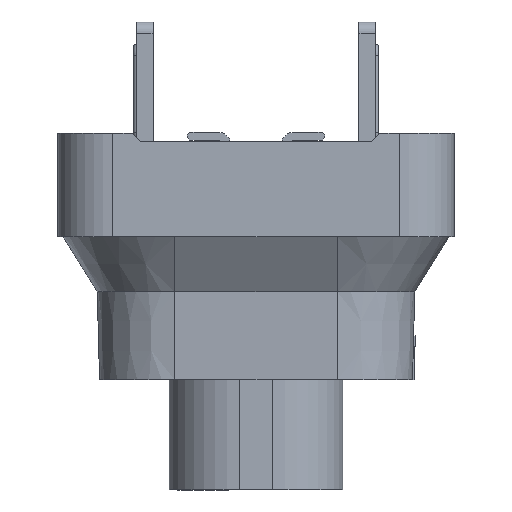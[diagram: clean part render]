
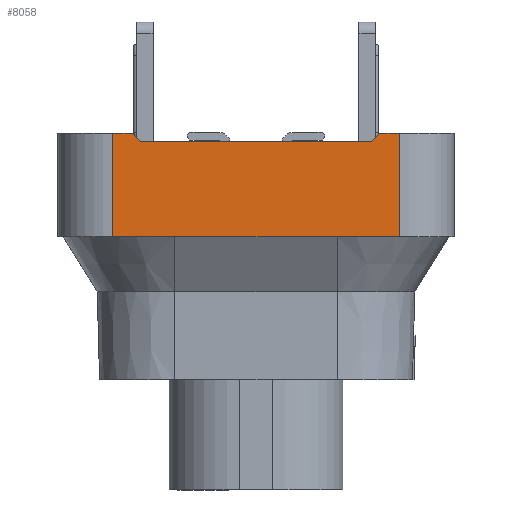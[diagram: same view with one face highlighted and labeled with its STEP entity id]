
A CAD part, left-side view. The second image highlights one B-rep face of the part: STEP entity #8058.
In plain terms, the highlighted planar face has unit normal (-1, 0, 0).
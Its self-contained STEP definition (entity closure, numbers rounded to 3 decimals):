
#157 = VECTOR ( 'NONE', #15771, 1000. ) ;
#159 = VECTOR ( 'NONE', #12511, 1000. ) ;
#929 = EDGE_CURVE ( 'NONE', #9531, #2343, #13704, .T. ) ;
#1407 = EDGE_CURVE ( 'NONE', #14914, #14629, #15536, .T. ) ;
#2066 = CARTESIAN_POINT ( 'NONE',  ( -7.623, 1.93, 14.79 ) ) ;
#2067 = DIRECTION ( 'NONE',  ( 0., 1., 0. ) ) ;
#2102 = CARTESIAN_POINT ( 'NONE',  ( -7.623, 3.574, 13.06 ) ) ;
#2132 = DIRECTION ( 'NONE',  ( 0., 0., 1. ) ) ;
#2153 = ORIENTED_EDGE ( 'NONE', *, *, #11407, .F. ) ;
#2191 = DIRECTION ( 'NONE',  ( 0., -0.707, -0.707 ) ) ;
#2237 = DIRECTION ( 'NONE',  ( 0., -1., 0. ) ) ;
#2343 = VERTEX_POINT ( 'NONE', #17227 ) ;
#2470 = VERTEX_POINT ( 'NONE', #4959 ) ;
#2739 = EDGE_CURVE ( 'NONE', #15483, #14914, #13928, .T. ) ;
#3559 = CARTESIAN_POINT ( 'NONE',  ( -7.623, 2.08, 14.94 ) ) ;
#3670 = VERTEX_POINT ( 'NONE', #11742 ) ;
#4071 = CARTESIAN_POINT ( 'NONE',  ( -7.623, 2.538, 14.79 ) ) ;
#4163 = EDGE_CURVE ( 'NONE', #15483, #3670, #11406, .T. ) ;
#4784 = CARTESIAN_POINT ( 'NONE',  ( -7.623, 3.574, 14.94 ) ) ;
#4939 = EDGE_CURVE ( 'NONE', #2470, #3670, #15441, .T. ) ;
#4959 = CARTESIAN_POINT ( 'NONE',  ( -7.623, 2.43, 13.06 ) ) ;
#5230 = ORIENTED_EDGE ( 'NONE', *, *, #1407, .F. ) ;
#6735 = DIRECTION ( 'NONE',  ( 0., 1., 0. ) ) ;
#6822 = FACE_OUTER_BOUND ( 'NONE', #18827, .T. ) ;
#8058 = ADVANCED_FACE ( 'NONE', ( #6822 ), #18773, .F. ) ;
#8290 = ORIENTED_EDGE ( 'NONE', *, *, #4939, .F. ) ;
#8987 = ORIENTED_EDGE ( 'NONE', *, *, #13967, .F. ) ;
#9006 = ORIENTED_EDGE ( 'NONE', *, *, #18170, .F. ) ;
#9291 = LINE ( 'NONE', #17589, #18302 ) ;
#9531 = VERTEX_POINT ( 'NONE', #16162 ) ;
#9676 = LINE ( 'NONE', #2102, #12467 ) ;
#9897 = CARTESIAN_POINT ( 'NONE',  ( -7.623, 2.43, 14.968 ) ) ;
#10658 = ORIENTED_EDGE ( 'NONE', *, *, #2739, .F. ) ;
#11406 = LINE ( 'NONE', #12859, #157 ) ;
#11407 = EDGE_CURVE ( 'NONE', #14629, #2343, #16600, .T. ) ;
#11412 = CARTESIAN_POINT ( 'NONE',  ( -7.623, -2.27, 14.79 ) ) ;
#11685 = ORIENTED_EDGE ( 'NONE', *, *, #929, .T. ) ;
#11742 = CARTESIAN_POINT ( 'NONE',  ( -7.623, 2.43, 14.94 ) ) ;
#11919 = CARTESIAN_POINT ( 'NONE',  ( -7.623, 2.08, 14.94 ) ) ;
#12268 = VECTOR ( 'NONE', #2191, 1000. ) ;
#12467 = VECTOR ( 'NONE', #15599, 1000. ) ;
#12511 = DIRECTION ( 'NONE',  ( 0., -0.707, 0.707 ) ) ;
#12747 = DIRECTION ( 'NONE',  ( 1., 0., 0. ) ) ;
#12842 = VECTOR ( 'NONE', #2067, 1000. ) ;
#12859 = CARTESIAN_POINT ( 'NONE',  ( -7.623, 3.574, 14.94 ) ) ;
#13704 = LINE ( 'NONE', #4784, #12842 ) ;
#13928 = LINE ( 'NONE', #3559, #12268 ) ;
#13958 = CARTESIAN_POINT ( 'NONE',  ( -7.623, -2.27, 14.79 ) ) ;
#13967 = EDGE_CURVE ( 'NONE', #9531, #18620, #9291, .T. ) ;
#14111 = CARTESIAN_POINT ( 'NONE',  ( -7.623, 2.538, 14.968 ) ) ;
#14629 = VERTEX_POINT ( 'NONE', #11412 ) ;
#14914 = VERTEX_POINT ( 'NONE', #2066 ) ;
#15441 = LINE ( 'NONE', #9897, #19103 ) ;
#15483 = VERTEX_POINT ( 'NONE', #11919 ) ;
#15536 = LINE ( 'NONE', #4071, #19044 ) ;
#15599 = DIRECTION ( 'NONE',  ( 0., 1., 0. ) ) ;
#15771 = DIRECTION ( 'NONE',  ( 0., 1., 0. ) ) ;
#16162 = CARTESIAN_POINT ( 'NONE',  ( -7.623, -2.77, 14.94 ) ) ;
#16218 = DIRECTION ( 'NONE',  ( 0., 0., -1. ) ) ;
#16600 = LINE ( 'NONE', #13958, #159 ) ;
#16837 = CARTESIAN_POINT ( 'NONE',  ( -7.623, -2.77, 13.06 ) ) ;
#17227 = CARTESIAN_POINT ( 'NONE',  ( -7.623, -2.42, 14.94 ) ) ;
#17589 = CARTESIAN_POINT ( 'NONE',  ( -7.623, -2.77, 14.968 ) ) ;
#18170 = EDGE_CURVE ( 'NONE', #18620, #2470, #9676, .T. ) ;
#18195 = ORIENTED_EDGE ( 'NONE', *, *, #4163, .T. ) ;
#18302 = VECTOR ( 'NONE', #16218, 1000. ) ;
#18334 = AXIS2_PLACEMENT_3D ( 'NONE', #14111, #12747, #6735 ) ;
#18620 = VERTEX_POINT ( 'NONE', #16837 ) ;
#18773 = PLANE ( 'NONE',  #18334 ) ;
#18827 = EDGE_LOOP ( 'NONE', ( #10658, #18195, #8290, #9006, #8987, #11685, #2153, #5230 ) ) ;
#19044 = VECTOR ( 'NONE', #2237, 1000. ) ;
#19103 = VECTOR ( 'NONE', #2132, 1000. ) ;
